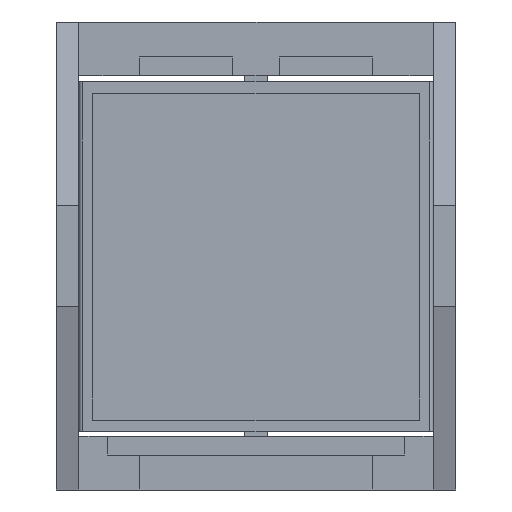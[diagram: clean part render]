
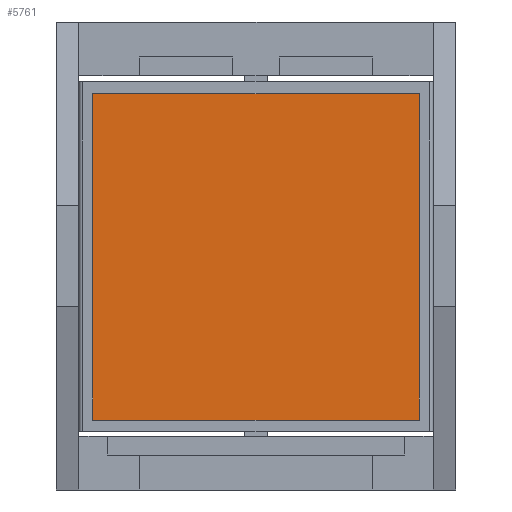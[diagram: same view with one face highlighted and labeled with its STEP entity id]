
A CAD part, front view. The second image highlights one B-rep face of the part: STEP entity #5761.
In plain terms, the highlighted planar face has unit normal (0, -1, 0).
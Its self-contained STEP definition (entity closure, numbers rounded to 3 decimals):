
#152 = DIRECTION ( 'NONE',  ( 0., 0., 1. ) ) ;
#422 = CARTESIAN_POINT ( 'NONE',  ( -11.919, -3.447, 13.523 ) ) ;
#511 = VERTEX_POINT ( 'NONE', #5617 ) ;
#516 = ORIENTED_EDGE ( 'NONE', *, *, #6491, .F. ) ;
#588 = EDGE_CURVE ( 'NONE', #511, #7115, #621, .T. ) ;
#621 = LINE ( 'NONE', #1434, #6814 ) ;
#715 = DIRECTION ( 'NONE',  ( 0., 1., 0. ) ) ;
#754 = VECTOR ( 'NONE', #7031, 1000. ) ;
#901 = LINE ( 'NONE', #422, #7266 ) ;
#951 = VERTEX_POINT ( 'NONE', #3969 ) ;
#1434 = CARTESIAN_POINT ( 'NONE',  ( 9.081, -3.447, -7.477 ) ) ;
#1436 = ORIENTED_EDGE ( 'NONE', *, *, #3324, .F. ) ;
#1771 = FACE_OUTER_BOUND ( 'NONE', #4602, .T. ) ;
#2499 = CARTESIAN_POINT ( 'NONE',  ( -11.919, -3.447, -7.477 ) ) ;
#2506 = DIRECTION ( 'NONE',  ( 0., 0., -1. ) ) ;
#2793 = AXIS2_PLACEMENT_3D ( 'NONE', #2976, #715, #152 ) ;
#2976 = CARTESIAN_POINT ( 'NONE',  ( -11.919, -3.447, 13.523 ) ) ;
#3324 = EDGE_CURVE ( 'NONE', #7115, #951, #4710, .T. ) ;
#3376 = PLANE ( 'NONE',  #2793 ) ;
#3604 = CARTESIAN_POINT ( 'NONE',  ( -11.919, -3.447, 13.523 ) ) ;
#3969 = CARTESIAN_POINT ( 'NONE',  ( -11.919, -3.447, -7.477 ) ) ;
#4106 = CARTESIAN_POINT ( 'NONE',  ( -11.919, -3.447, -7.477 ) ) ;
#4217 = DIRECTION ( 'NONE',  ( 1., 0., 0. ) ) ;
#4602 = EDGE_LOOP ( 'NONE', ( #5271, #1436, #4939, #516 ) ) ;
#4710 = LINE ( 'NONE', #4106, #7304 ) ;
#4773 = LINE ( 'NONE', #2499, #754 ) ;
#4939 = ORIENTED_EDGE ( 'NONE', *, *, #588, .F. ) ;
#5097 = CARTESIAN_POINT ( 'NONE',  ( 9.081, -3.447, -7.477 ) ) ;
#5229 = DIRECTION ( 'NONE',  ( -1., 0., 0. ) ) ;
#5271 = ORIENTED_EDGE ( 'NONE', *, *, #5673, .F. ) ;
#5617 = CARTESIAN_POINT ( 'NONE',  ( 9.081, -3.447, 13.523 ) ) ;
#5673 = EDGE_CURVE ( 'NONE', #951, #6456, #4773, .T. ) ;
#5761 = ADVANCED_FACE ( 'NONE', ( #1771 ), #3376, .F. ) ;
#6456 = VERTEX_POINT ( 'NONE', #3604 ) ;
#6491 = EDGE_CURVE ( 'NONE', #6456, #511, #901, .T. ) ;
#6814 = VECTOR ( 'NONE', #2506, 1000. ) ;
#7031 = DIRECTION ( 'NONE',  ( 0., 0., 1. ) ) ;
#7115 = VERTEX_POINT ( 'NONE', #5097 ) ;
#7266 = VECTOR ( 'NONE', #4217, 1000. ) ;
#7304 = VECTOR ( 'NONE', #5229, 1000. ) ;
